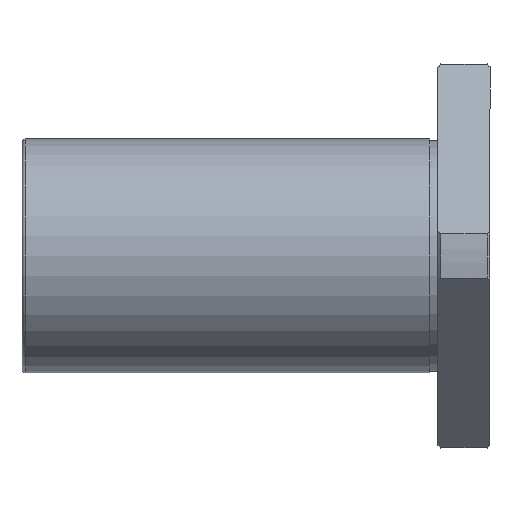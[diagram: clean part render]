
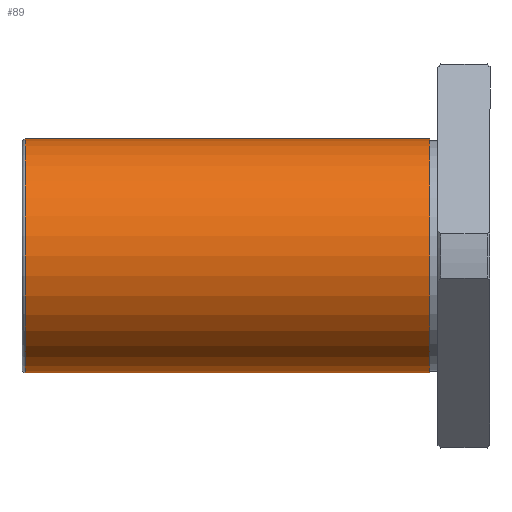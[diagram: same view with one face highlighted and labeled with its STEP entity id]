
A CAD part, front view. The second image highlights one B-rep face of the part: STEP entity #89.
In plain terms, the highlighted cylindrical face has radius 22.5 mm (diameter 45 mm), a full revolution.
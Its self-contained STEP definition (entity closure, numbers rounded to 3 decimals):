
#89=ADVANCED_FACE('',(#150,#151),#152,.T.);
#150=FACE_OUTER_BOUND('',#250,.T.);
#151=FACE_OUTER_BOUND('',#251,.T.);
#152=CYLINDRICAL_SURFACE('',#252,22.5);
#250=EDGE_LOOP('',(#390));
#251=EDGE_LOOP('',(#391));
#252=AXIS2_PLACEMENT_3D('',#392,#393,#394);
#390=ORIENTED_EDGE('',*,*,#564,.T.);
#391=ORIENTED_EDGE('',*,*,#594,.T.);
#392=CARTESIAN_POINT('',(-37.5,0.0,0.));
#393=DIRECTION('',(-1.0,-0.0,0.));
#394=DIRECTION('',(0.0,1.0,0.0));
#564=EDGE_CURVE('',#637,#637,#638,.F.);
#594=EDGE_CURVE('',#697,#697,#698,.T.);
#637=VERTEX_POINT('',#763);
#638=CIRCLE('',#764,22.5);
#697=VERTEX_POINT('',#895);
#698=CIRCLE('',#896,22.5);
#763=CARTESIAN_POINT('',(-89.4,0.,22.5));
#764=AXIS2_PLACEMENT_3D('',#1051,#1052,#1053);
#895=CARTESIAN_POINT('',(-11.6,22.5,0.));
#896=AXIS2_PLACEMENT_3D('',#1117,#1118,#1119);
#1051=CARTESIAN_POINT('',(-89.4,0.0,0.));
#1052=DIRECTION('',(-1.0,0.0,0.));
#1053=DIRECTION('',(0.,0.0,1.0));
#1117=CARTESIAN_POINT('',(-11.6,0.0,0.));
#1118=DIRECTION('',(-1.0,0.0,0.));
#1119=DIRECTION('',(0.0,1.0,0.0));
